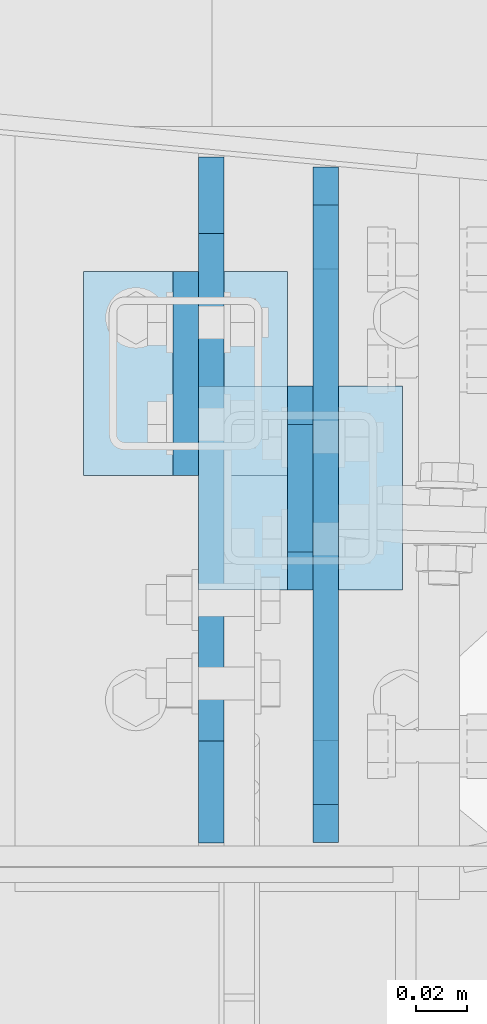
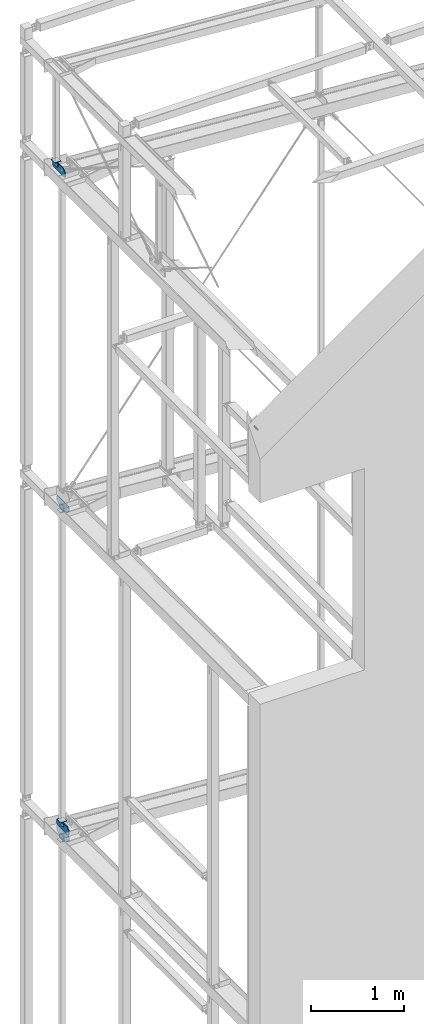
# One storey, part 143 of 271: 12 plates, 6 elements without a shape of their own.
"""IFC2X3 building model written with IfcOpenShell, lengths in millimetres."""

from ifc_helpers import new_model, si_unit, frame, origin_with_axes, place, context, subcontext, project, spatial, polyline, outline, extrude, material, type_object, element, aggregate, save


model = new_model("IFC2X3")

# Units and contexts
model_context = context("Model", 3, precision=1e-05, world=origin_with_axes())
body_context = subcontext(model_context, "Body", "Model", "MODEL_VIEW")
ifc_project = project(units=[si_unit("LENGTHUNIT", "METRE", prefix="MILLI"), si_unit("AREAUNIT", "SQUARE_METRE"), si_unit("VOLUMEUNIT", "CUBIC_METRE"), si_unit("MASSUNIT", "GRAM", prefix="KILO"), si_unit("TIMEUNIT", "SECOND"), si_unit("PLANEANGLEUNIT", "RADIAN"), si_unit("SOLIDANGLEUNIT", "STERADIAN"), si_unit("THERMODYNAMICTEMPERATUREUNIT", "DEGREE_CELSIUS"), si_unit("LUMINOUSINTENSITYUNIT", "LUMEN")], contexts=[model_context])

# Site, building, storey
site_placement = place(None, origin_with_axes())
site = spatial("IfcSite", under=ifc_project, at=site_placement, Name="Undefined", CompositionType="ELEMENT")
building_placement = place(site_placement, origin_with_axes())
building = spatial("IfcBuilding", under=site, at=building_placement, Name="Undefined", CompositionType="ELEMENT")
storey_placement = place(building_placement, origin_with_axes())
storey = spatial("IfcBuildingStorey", under=building, at=storey_placement, Name="Undefined", CompositionType="ELEMENT", Elevation=0.0)

# Assembly, plate
assembly_1_placement = place(storey_placement, origin_with_axes())
assembly_1 = element("IfcElementAssembly", 1, at=assembly_1_placement, inside=storey, AssemblyPlace="NOTDEFINED", PredefinedType="RIGID_FRAME")
ifc_material = material(Name="STEEL/S355JR")
plate_type_1 = type_object("IfcPlateType", Name="BL10*70", PredefinedType="NOTDEFINED")
plate_1_placement = place(assembly_1_placement, frame((77.9999996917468, 4377.19355050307, 18712.649999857), z_axis=(-1.0, 0.0, 1.38777878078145e-17), x_axis=(0.0, -0.707106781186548, -0.707106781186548)))
plate_1 = element("IfcPlate", 2, at=plate_1_placement, type_object=plate_type_1, material=ifc_material, Name="BLACHA", ObjectType="BL10*70", context=body_context, shape_type="SweptSolid", body=[
    extrude(outline(polyline([(0.0, 0.0), (21.2132034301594, 1.09139364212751e-11), (56.5685424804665, 35.3553390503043), (56.568542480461, 56.5685424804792), (17.6776695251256, 95.4594192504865), (-38.890872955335, 38.8908729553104), (0.0, 0.0)])), frame((0.0, 0.0, -5.0), z_axis=(0.0, 0.0, 1.0), x_axis=(1.0, 0.0, 0.0)), (0.0, 0.0, 1.0), 10.0),
])

# Assembly, plates
assembly_2_placement = place(storey_placement, origin_with_axes())
assembly_2 = element("IfcElementAssembly", 3, at=assembly_2_placement, inside=storey, AssemblyPlace="NOTDEFINED", PredefinedType="RIGID_FRAME")
plate_2_placement = place(assembly_2_placement, frame((122.999999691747, 4252.19355050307, 14256.049999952), z_axis=(-1.0, 0.0, 1.38777878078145e-17), x_axis=(0.0, 0.707106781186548, 0.707106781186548)))
plate_2 = element("IfcPlate", 4, at=plate_2_placement, type_object=plate_type_1, material=ifc_material, Name="BLACHA", ObjectType="BL10*70", context=body_context, shape_type="SweptSolid", body=[
    extrude(outline(polyline([(0.0, 0.0), (21.2132034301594, 1.09139364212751e-11), (56.5685424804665, 35.3553390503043), (56.568542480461, 56.5685424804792), (17.6776695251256, 95.4594192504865), (-38.890872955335, 38.8908729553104), (0.0, 0.0)])), frame((0.0, 0.0, -5.0), z_axis=(0.0, 0.0, 1.0), x_axis=(1.0, 0.0, 0.0)), (0.0, 0.0, 1.0), 10.0),
])
plate_3_placement = place(assembly_2_placement, frame((122.999999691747, 4332.19355050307, 10072.649999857), z_axis=(-1.0, 0.0, 1.38777878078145e-17), x_axis=(0.0, -0.707106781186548, -0.707106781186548)))
plate_3 = element("IfcPlate", 5, at=plate_3_placement, type_object=plate_type_1, material=ifc_material, Name="BLACHA", ObjectType="BL10*70", context=body_context, shape_type="SweptSolid", body=[
    extrude(outline(polyline([(0.0, 0.0), (21.2132034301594, 1.09139364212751e-11), (56.5685424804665, 35.3553390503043), (56.568542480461, 56.5685424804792), (17.6776695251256, 95.4594192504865), (-38.890872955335, 38.8908729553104), (0.0, 0.0)])), frame((0.0, 0.0, -5.0), z_axis=(0.0, 0.0, 1.0), x_axis=(1.0, 0.0, 0.0)), (0.0, 0.0, 1.0), 10.0),
])

# Assembly, plate
assembly_3_placement = place(storey_placement, origin_with_axes())
assembly_3 = element("IfcElementAssembly", 6, at=assembly_3_placement, inside=storey, AssemblyPlace="NOTDEFINED", PredefinedType="RIGID_FRAME")
plate_4_placement = place(assembly_3_placement, frame((122.999999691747, 4252.19355050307, 9936.04999995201), z_axis=(-1.0, 0.0, 1.38777878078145e-17), x_axis=(0.0, 0.707106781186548, 0.707106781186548)))
plate_4 = element("IfcPlate", 7, at=plate_4_placement, type_object=plate_type_1, material=ifc_material, Name="BLACHA", ObjectType="BL10*70", context=body_context, shape_type="SweptSolid", body=[
    extrude(outline(polyline([(0.0, 0.0), (21.2132034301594, 1.09139364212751e-11), (56.5685424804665, 35.3553390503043), (56.568542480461, 56.5685424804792), (17.6776695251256, 95.4594192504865), (-38.890872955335, 38.8908729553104), (0.0, 0.0)])), frame((0.0, 0.0, -5.0), z_axis=(0.0, 0.0, 1.0), x_axis=(1.0, 0.0, 0.0)), (0.0, 0.0, 1.0), 10.0),
])

assembly_4_placement = place(storey_placement, origin_with_axes())
assembly_4 = element("IfcElementAssembly", 8, at=assembly_4_placement, inside=storey, AssemblyPlace="NOTDEFINED", PredefinedType="RIGID_FRAME")
plate_type_2 = type_object("IfcPlateType", Name="BL10*100", PredefinedType="NOTDEFINED")
plate_5_placement = place(assembly_4_placement, frame((87.9999996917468, 4422.05211980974, 18647.649999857), z_axis=(-1.0, 0.0, 1.38777878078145e-17), x_axis=(0.0, -1.0, 0.0)))
plate_5 = element("IfcPlate", 9, at=plate_5_placement, type_object=plate_type_2, material=ifc_material, Name="BLACHA", ObjectType="BL10*100", context=body_context, shape_type="SweptSolid", body=[
    extrude(outline(polyline([(0.0, 15.0), (15.0, -1.59872115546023e-14), (254.0, -1.4210854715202e-14), (269.0, 15.0), (269.0, 60.0000000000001), (229.0, 100.0), (30.0, 100.0), (0.0, 60.0), (0.0, 15.0)])), frame((0.0, 0.0, -5.0), z_axis=(0.0, 0.0, 1.0), x_axis=(1.0, 0.0, 0.0)), (0.0, 0.0, 1.0), 10.0),
])
aggregate(assembly_4, [plate_5])

assembly_5_placement = place(storey_placement, origin_with_axes())
assembly_5 = element("IfcElementAssembly", 10, at=assembly_5_placement, inside=storey, AssemblyPlace="NOTDEFINED", PredefinedType="RIGID_FRAME")
plate_6_placement = place(assembly_5_placement, frame((132.999999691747, 4153.19355050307, 14321.049999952), z_axis=(-1.0, 0.0, 1.38777878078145e-17), x_axis=(0.0, 1.0, 0.0)))
plate_6 = element("IfcPlate", 11, at=plate_6_placement, type_object=plate_type_2, material=ifc_material, Name="BLACHA", ObjectType="BL10*100", context=body_context, shape_type="SweptSolid", body=[
    extrude(outline(polyline([(0.0, 15.0), (15.0, -1.59872115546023e-14), (250.0, -1.4210854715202e-14), (265.0, 15.0), (265.0, 60.0000000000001), (225.0, 100.0), (40.0, 100.0), (0.0, 60.0), (0.0, 15.0)])), frame((0.0, 0.0, -5.0), z_axis=(0.0, 0.0, 1.0), x_axis=(1.0, 0.0, 0.0)), (0.0, 0.0, 1.0), 10.0),
])
aggregate(assembly_5, [plate_6])

# Assembly, plates
assembly_6_placement = place(storey_placement, origin_with_axes())
assembly_6 = element("IfcElementAssembly", 12, at=assembly_6_placement, inside=storey, AssemblyPlace="NOTDEFINED", PredefinedType="RIGID_FRAME")
plate_7_placement = place(assembly_6_placement, frame((132.999999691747, 4418.19355050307, 10007.649999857), z_axis=(-1.0, 0.0, 1.38777878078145e-17), x_axis=(0.0, -1.0, 0.0)))
plate_7 = element("IfcPlate", 13, at=plate_7_placement, type_object=plate_type_2, material=ifc_material, Name="BLACHA", ObjectType="BL10*100", context=body_context, shape_type="SweptSolid", body=[
    extrude(outline(polyline([(0.0, 15.0), (15.0, -1.59872115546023e-14), (250.0, -1.4210854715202e-14), (265.0, 15.0), (265.0, 60.0000000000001), (225.0, 100.0), (40.0, 100.0), (0.0, 60.0), (0.0, 15.0)])), frame((0.0, 0.0, -5.0), z_axis=(0.0, 0.0, 1.0), x_axis=(1.0, 0.0, 0.0)), (0.0, 0.0, 1.0), 10.0),
])
plate_8_placement = place(assembly_6_placement, frame((132.999999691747, 4153.19355050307, 10001.049999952), z_axis=(-1.0, 0.0, 1.38777878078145e-17), x_axis=(0.0, 1.0, 0.0)))
plate_8 = element("IfcPlate", 14, at=plate_8_placement, type_object=plate_type_2, material=ifc_material, Name="BLACHA", ObjectType="BL10*100", context=body_context, shape_type="SweptSolid", body=[
    extrude(outline(polyline([(0.0, 15.0), (15.0, -1.59872115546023e-14), (250.0, -1.4210854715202e-14), (265.0, 15.0), (265.0, 60.0000000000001), (225.0, 100.0), (40.0, 100.0), (0.0, 60.0), (0.0, 15.0)])), frame((0.0, 0.0, -5.0), z_axis=(0.0, 0.0, 1.0), x_axis=(1.0, 0.0, 0.0)), (0.0, 0.0, 1.0), 10.0),
])
aggregate(assembly_6, [plate_7, plate_8])

# Plate
plate_type_3 = type_object("IfcPlateType", Name="BL8*80", PredefinedType="NOTDEFINED")
plate_9_placement = place(assembly_1_placement, frame((117.999999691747, 4377.19355050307, 18771.649999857), z_axis=(0.0, 0.0, -1.0), x_axis=(0.0, -1.0, 0.0)))
plate_9 = element("IfcPlate", 15, at=plate_9_placement, type_object=plate_type_3, material=ifc_material, Name="BLACHA", ObjectType="BL8*80", context=body_context, shape_type="SweptSolid", body=[
    extrude(outline(polyline([(0.0, 0.0), (80.0, 0.0), (80.0, 80.0), (0.0, 80.0), (0.0, 0.0)])), frame((0.0, 0.0, -4.0), z_axis=(0.0, 0.0, 1.0), x_axis=(1.0, 0.0, 0.0)), (0.0, 0.0, 1.0), 8.0),
])

aggregate(assembly_1, [plate_9, plate_1])

plate_10_placement = place(assembly_2_placement, frame((162.999999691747, 4252.19355050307, 14197.049999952), z_axis=(0.0, 0.0, 1.0), x_axis=(0.0, 1.0, 0.0)))
plate_10 = element("IfcPlate", 16, at=plate_10_placement, type_object=plate_type_3, material=ifc_material, Name="BLACHA", ObjectType="BL8*80", context=body_context, shape_type="SweptSolid", body=[
    extrude(outline(polyline([(0.0, 0.0), (80.0, 0.0), (80.0, 80.0), (0.0, 80.0), (0.0, 0.0)])), frame((0.0, 0.0, -4.0), z_axis=(0.0, 0.0, 1.0), x_axis=(1.0, 0.0, 0.0)), (0.0, 0.0, 1.0), 8.0),
])

plate_11_placement = place(assembly_2_placement, frame((162.999999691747, 4332.19355050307, 10131.649999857), z_axis=(0.0, 0.0, -1.0), x_axis=(0.0, -1.0, 0.0)))
plate_11 = element("IfcPlate", 17, at=plate_11_placement, type_object=plate_type_3, material=ifc_material, Name="BLACHA", ObjectType="BL8*80", context=body_context, shape_type="SweptSolid", body=[
    extrude(outline(polyline([(0.0, 0.0), (80.0, 0.0), (80.0, 80.0), (0.0, 80.0), (0.0, 0.0)])), frame((0.0, 0.0, -4.0), z_axis=(0.0, 0.0, 1.0), x_axis=(1.0, 0.0, 0.0)), (0.0, 0.0, 1.0), 8.0),
])

aggregate(assembly_2, [plate_10, plate_2, plate_11, plate_3])

plate_12_placement = place(assembly_3_placement, frame((162.999999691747, 4252.19355050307, 9877.04999995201), z_axis=(0.0, 0.0, 1.0), x_axis=(0.0, 1.0, 0.0)))
plate_12 = element("IfcPlate", 18, at=plate_12_placement, type_object=plate_type_3, material=ifc_material, Name="BLACHA", ObjectType="BL8*80", context=body_context, shape_type="SweptSolid", body=[
    extrude(outline(polyline([(0.0, 0.0), (80.0, 0.0), (80.0, 80.0), (0.0, 80.0), (0.0, 0.0)])), frame((0.0, 0.0, -4.0), z_axis=(0.0, 0.0, 1.0), x_axis=(1.0, 0.0, 0.0)), (0.0, 0.0, 1.0), 8.0),
])

aggregate(assembly_3, [plate_12, plate_4])

save(model, "model.ifc")
